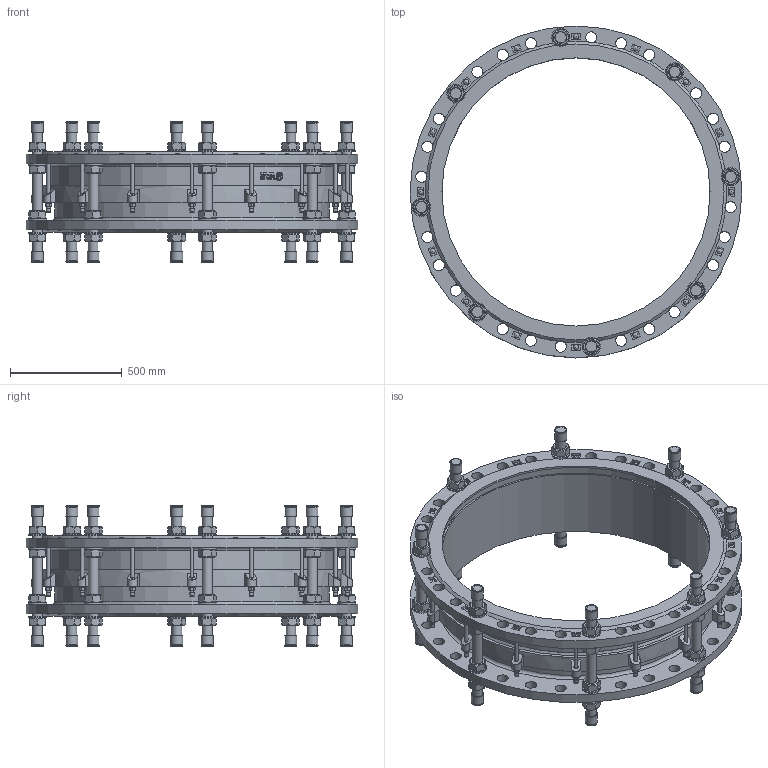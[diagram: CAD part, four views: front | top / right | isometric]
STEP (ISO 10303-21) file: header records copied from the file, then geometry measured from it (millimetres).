
FILE_DESCRIPTION(('STEP AP242'), '1');
FILE_NAME('Ìîíòàæíàÿ âñòàâêà', '', ('UNSPECIFIED'), ('UNSPECIFIED'), 'C3D Converter', 'C3D Toolkit', '');
FILE_SCHEMA(('AP242_MANAGED_MODEL_BASED_3D_ENGINEERING_MIM_LF { 1 0 10303 442 1 1 4 }'));
Length unit declared in the file: millimetre
Products named in the file (13): ШМ.М16.310
Assembly tree (156 placements, depth 2):
  (unnamed)
    (unnamed)
    (unnamed)
    (unnamed)
    (unnamed)  x32
    (unnamed)  x32
    ШМ.М16.310  x8
    (unnamed)  x16
    (unnamed)
    (unnamed)  x16
    (unnamed)  x16
    (unnamed)  x16
    (unnamed)  x16
Bounding box: 1485 x 1485 x 629 mm (x, y, z)
Volume: 97064169.8 mm3; surface area: 10405702.5 mm2
Topology: 156 solids, 156 shells, 1727 faces, 3921 edges, 2489 vertices
Faces by surface type: plane 1022, cylinder 414, cone 230, torus 34, sphere 16, extrusion 11
Full cylindrical faces by diameter (mm): 16 x48, 17 x16, 18 x16, 19.2 x16, 30 x16, 36.543 x1, 45 x56, 46 x32, 50 x64, 54 x16, 82 x32, 1200 x2, 1228 x2, 1242 x2, 1270 x1, 1298 x1, 1312 x1, 1340 x1, 1485 x2
Entity records: 32855 total; most frequent: CARTESIAN_POINT 14707, DIRECTION 3040, ORIENTED_EDGE 2766, EDGE_CURVE 1383, AXIS2_PLACEMENT_3D 1203, VERTEX_POINT 996, EDGE_LOOP 807, VECTOR 634
